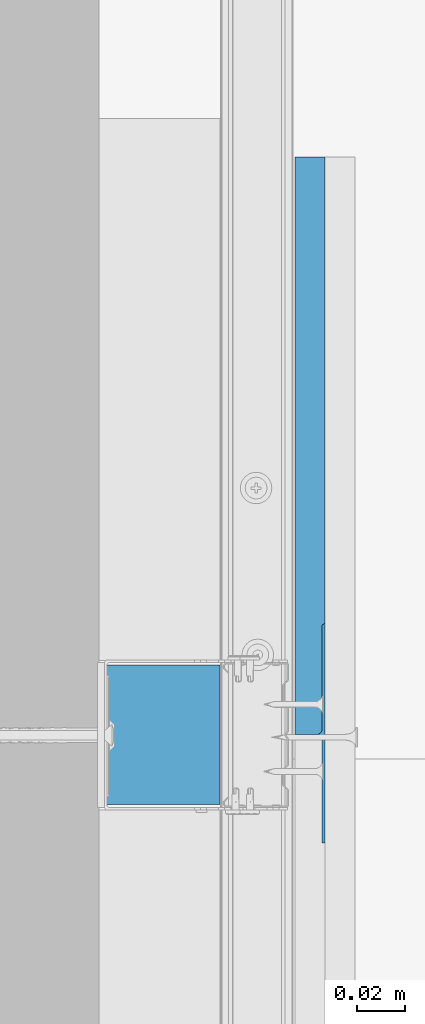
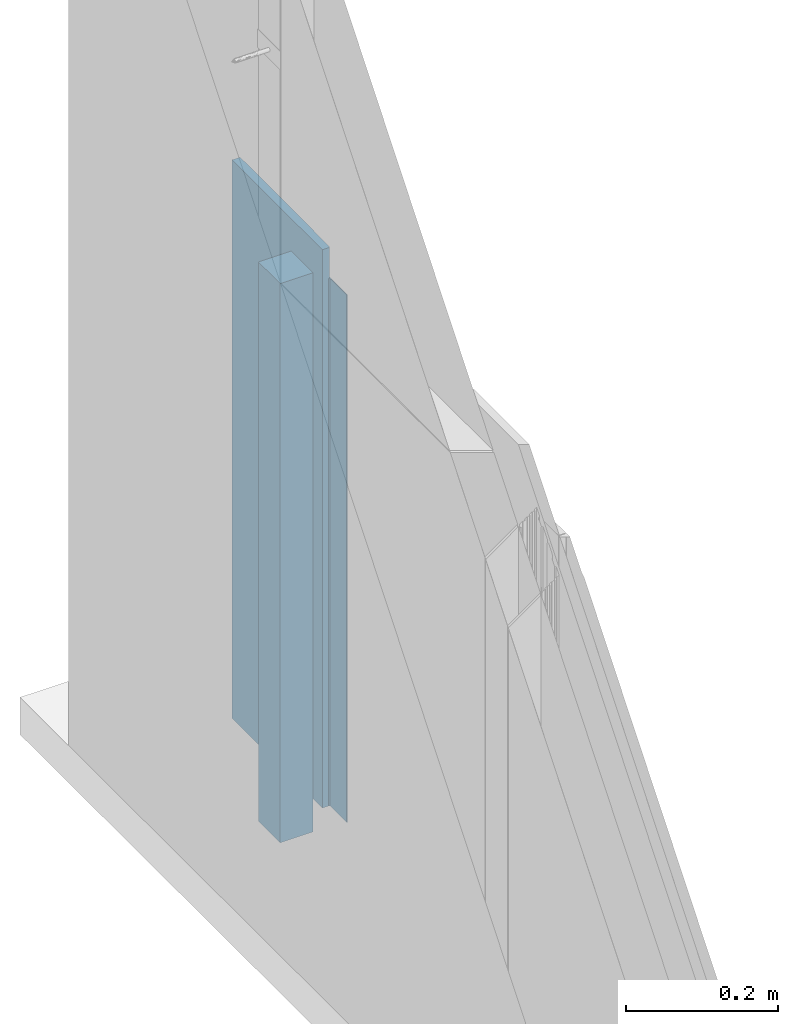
# One storey, part 9 of 67: 3 walls.
"""IFC2X3 building model written with IfcOpenShell, lengths in millimetres."""

from ifc_helpers import new_model, si_unit, frame, origin_with_axes, place, context, subcontext, project, spatial, faceted_brep, material, type_object, element, save


model = new_model("IFC2X3")

# Units and contexts
model_context = context("Model", 3, world=origin_with_axes())
body_context = subcontext(model_context, "Body", "Model", "MODEL_VIEW")
ifc_project = project(units=[si_unit("LENGTHUNIT", "METRE", prefix="MILLI"), si_unit("AREAUNIT", "SQUARE_METRE"), si_unit("VOLUMEUNIT", "CUBIC_METRE")], contexts=[model_context])

# Site, building, storey
site_placement = place(None, frame((2152.14102611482, 674.9749105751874, 57.61556563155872), z_axis=(0.0, 0.0, 1.0), x_axis=(-1.1102230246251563e-16, 1.0, 0.0)))
site = spatial("IfcSite", under=ifc_project, at=site_placement, Name="Default Site", CompositionType="ELEMENT")
building_placement = place(site_placement, origin_with_axes())
building = spatial("IfcBuilding", under=site, at=building_placement, Name="Default Building", CompositionType="ELEMENT")
storey_placement = place(building_placement, origin_with_axes())
storey = spatial("IfcBuildingStorey", under=building, at=storey_placement, Name="Default Building Storey", CompositionType="ELEMENT", Elevation=57.61556563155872)

# Walls
ifc_material_1 = material(Name="Undefined7")
wall_type_1 = type_object("IfcWallType", Name="Płyta gipsowo-kartonowa RIGIPS PRO (4PRO™)#3", PredefinedType="NOTDEFINED")
wall_1_placement = place(storey_placement, frame((3423.4296487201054, 1941.1800775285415, 1162.3900398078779), z_axis=(0.0, 0.0, 1.0), x_axis=(1.0, 0.0, 0.0)))
element("IfcWall", 1, at=wall_1_placement, inside=storey, type_object=wall_type_1, material=ifc_material_1, Name="Płyta gipsowo-kartonowa RIGIPS PRO (4PRO™)", context=body_context, shape_type="Brep", body=[
    faceted_brep([(253.6109685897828, -12.500000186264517, -1150.001525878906), (253.6109685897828, 1.6315198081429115e-10, -1150.001525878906), (253.6109685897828, 1.6351293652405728e-10, -250.0), (253.6109685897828, -12.500000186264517, -250.0), (14.943075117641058, -10.999999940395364, -1150.001525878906), (14.943075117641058, -10.999999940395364, -250.0), (14.843174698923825, -10.758819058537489, -250.0), (14.843174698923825, -10.758819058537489, -1150.001525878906), (14.809100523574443, -10.49999985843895, -1150.001525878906), (14.809100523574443, -10.49999985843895, -250.0), (14.80910052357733, 0.0, -250.0), (14.80910052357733, 0.0, -1150.001525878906), (15.309100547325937, -11.366025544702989, -250.0), (15.5502814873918, -11.465925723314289, -250.0), (15.809100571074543, -11.500000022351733, -250.0), (55.80910165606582, -11.500000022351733, -250.0), (59.809102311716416, -12.500000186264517, -250.0), (15.101993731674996, -11.207106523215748, -250.0), (55.80910165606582, -11.500000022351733, -1150.001525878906), (59.809102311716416, -12.500000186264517, -1150.001525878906), (15.809100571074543, -11.500000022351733, -1150.001525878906), (15.309100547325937, -11.366025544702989, -1150.001525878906), (15.5502814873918, -11.465925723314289, -1150.001525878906), (15.101993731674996, -11.207106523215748, -1150.001525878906)], [[[0, 1, 2, 3]], [[4, 5, 6, 7]], [[8, 9, 10, 11]], [[12, 13, 14, 15, 16, 3, 2, 10, 9, 6, 5, 17]], [[18, 19, 16, 15]], [[20, 18, 15, 14]], [[21, 22, 13, 12]], [[23, 17, 5, 4]], [[22, 20, 14, 13]], [[23, 21, 12, 17]], [[7, 6, 9, 8]], [[19, 0, 3, 16]], [[10, 2, 1, 11]], [[19, 18, 20, 22, 21, 23, 4, 7, 8, 11, 1, 0]]]),
])
ifc_material_2 = material(Name="Undefined5")
wall_type_2 = type_object("IfcWallType", Name="Masa szpachlowa konstrukcyjna RIGIPS#2", PredefinedType="NOTDEFINED")
wall_2_placement = place(storey_placement, frame((4175.888865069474, 5319.236799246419, 261.590039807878), z_axis=(0.0, 0.0, 1.0), x_axis=(1.0, 0.0, 0.0)))
element("IfcWall", 2, at=wall_2_placement, inside=storey, type_object=wall_type_2, material=ifc_material_2, Name="Masa szpachlowa konstrukcyjna RIGIPS", context=body_context, shape_type="Brep", body=[
    faceted_brep([(-737.5571131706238, -3387.974739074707, 600.7999777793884), (-737.6772165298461, -3388.2646560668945, 600.7999777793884), (-737.8411889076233, -3388.532400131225, 600.7999777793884), (-738.0449771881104, -3388.770818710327, 600.7999777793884), (-738.283634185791, -3388.9746665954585, 600.7999777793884), (-738.5512590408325, -3389.138698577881, 600.7999777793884), (-738.84117603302, -3389.258861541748, 600.7999777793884), (-739.14635181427, -3389.3320560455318, 600.7999777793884), (-739.459216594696, -3389.3566131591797, 600.7999777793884), (-782.4591994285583, -3389.3566131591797, 600.7999777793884), (-782.4591994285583, -3390.556812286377, 600.7999777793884), (-691.4592385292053, -3390.556812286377, 600.7999777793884), (-692.459225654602, -3389.3566131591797, 600.7999777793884), (-735.4592084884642, -3389.3566131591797, 600.7999777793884), (-735.7720732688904, -3389.3320560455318, 600.7999777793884), (-736.0772490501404, -3389.258861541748, 600.7999777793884), (-736.3672256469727, -3389.138698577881, 600.7999777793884), (-736.6347908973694, -3388.9746665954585, 600.7999777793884), (-736.87344789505, -3388.770818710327, 600.7999777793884), (-737.0772361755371, -3388.532400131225, 600.7999777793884), (-737.2412085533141, -3388.2646560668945, 600.7999777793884), (-737.3613119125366, -3387.974739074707, 600.7999777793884), (-737.4345660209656, -3387.669563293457, 600.7999777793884), (-737.4592423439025, -3387.356758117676, 600.7999777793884), (-737.4838590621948, -3387.669563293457, 600.7999777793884), (-782.4591994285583, -3390.556812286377, -249.20158088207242), (-782.4591994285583, -3389.3566131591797, -249.20158088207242), (-739.459216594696, -3389.3566131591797, -249.20158088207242), (-739.14635181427, -3389.3320560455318, -249.20158088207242), (-738.84117603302, -3389.258861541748, -249.20158088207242), (-738.5512590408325, -3389.138698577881, -249.20158088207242), (-738.283634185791, -3388.9746665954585, -249.20158088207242), (-738.0449771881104, -3388.770818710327, -249.20158088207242), (-737.8411889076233, -3388.532400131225, -249.20158088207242), (-737.6772165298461, -3388.2646560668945, -249.20158088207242), (-737.5571131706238, -3387.974739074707, -249.20158088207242), (-737.4838590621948, -3387.669563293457, -249.20158088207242), (-737.4592423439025, -3387.356758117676, -249.20158088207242), (-737.4345660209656, -3387.669563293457, -249.20158088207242), (-737.3613119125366, -3387.974739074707, -249.20158088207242), (-737.2412085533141, -3388.2646560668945, -249.20158088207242), (-737.0772361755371, -3388.532400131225, -249.20158088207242), (-736.87344789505, -3388.770818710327, -249.20158088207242), (-736.6347908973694, -3388.9746665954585, -249.20158088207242), (-736.3672256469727, -3389.138698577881, -249.20158088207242), (-736.0772490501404, -3389.258861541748, -249.20158088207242), (-735.7720732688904, -3389.3320560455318, -249.20158088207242), (-735.4592084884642, -3389.3566131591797, -249.20158088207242), (-692.459225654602, -3389.3566131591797, -249.20158088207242), (-691.4592385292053, -3390.556812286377, -249.20158088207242)], [[[0, 1, 2, 3, 4, 5, 6, 7, 8, 9, 10, 11, 12, 13, 14, 15, 16, 17, 18, 19, 20, 21, 22, 23, 24]], [[25, 26, 27, 28, 29, 30, 31, 32, 33, 34, 35, 36, 37, 38, 39, 40, 41, 42, 43, 44, 45, 46, 47, 48, 49]], [[47, 13, 12, 48]], [[46, 45, 15, 14]], [[14, 13, 47, 46]], [[15, 45, 44, 16]], [[43, 42, 18, 17]], [[17, 16, 44, 43]], [[41, 40, 20, 19]], [[19, 18, 42, 41]], [[20, 40, 39, 21]], [[38, 37, 23, 22]], [[22, 21, 39, 38]], [[36, 35, 0, 24]], [[24, 23, 37, 36]], [[0, 35, 34, 1]], [[33, 32, 3, 2]], [[2, 1, 34, 33]], [[31, 30, 5, 4]], [[4, 3, 32, 31]], [[5, 30, 29, 6]], [[28, 27, 8, 7]], [[7, 6, 29, 28]], [[26, 9, 8, 27]], [[25, 10, 9, 26]], [[49, 11, 10, 25]], [[48, 12, 11, 49]]]),
])
ifc_material_3 = material(Name="Undefined")
wall_type_3 = type_object("IfcWallType", Name="Wypełnienie z wełny mineralnej szklanej ISOVER#4", PredefinedType="NOTDEFINED")
wall_3_placement = place(storey_placement, frame((3241.1765458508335, 5350.424146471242, -7.900000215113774), z_axis=(0.0, 0.0, 1.0), x_axis=(-1.0, 4.718447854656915e-16, 0.0)))
element("IfcWall", 3, at=wall_3_placement, inside=storey, type_object=wall_type_3, material=ifc_material_3, Name="Wypełnienie z wełny mineralnej szklanej ISOVER", context=body_context, shape_type="Brep", body=[
    faceted_brep([(-168.12478005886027, 3328.2832634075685, 911.543607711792), (-225.8247733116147, 3328.2832634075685, 911.543607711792), (-225.8247733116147, 3328.2832634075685, 10.28402615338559), (-168.12478005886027, 3328.2832634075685, 10.28402615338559), (-168.12478005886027, 3378.2831687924, 10.28402615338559), (-168.12478005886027, 3378.2831687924, 911.543607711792), (-225.8247733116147, 3378.283168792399, 911.543607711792), (-225.8247733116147, 3378.283168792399, 10.28402615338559)], [[[0, 1, 2, 3]], [[3, 4, 5, 0]], [[6, 5, 4, 7]], [[7, 4, 3, 2]]]),
    faceted_brep([(-225.8247733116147, 3328.2832634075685, 911.543607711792), (-225.8247733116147, 3378.283168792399, 911.543607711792), (-225.8247733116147, 3378.283168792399, 10.28402615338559), (-225.8247733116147, 3328.2832634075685, 10.28402615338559), (-168.12478005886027, 3328.2832634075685, 911.543607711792), (-168.12478005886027, 3378.2831687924, 911.543607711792)], [[[0, 1, 2, 3]], [[0, 4, 5, 1]]]),
])

save(model, "model.ifc")
